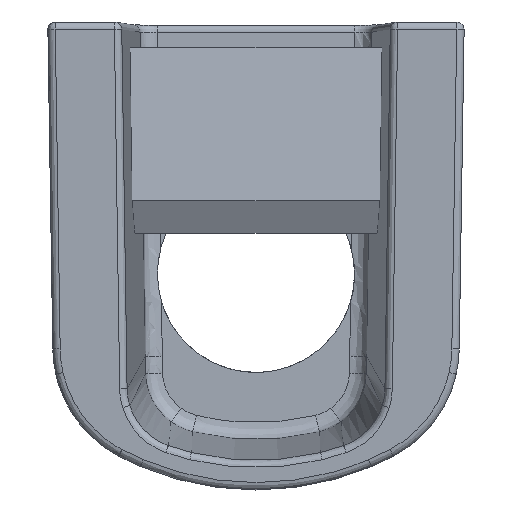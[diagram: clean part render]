
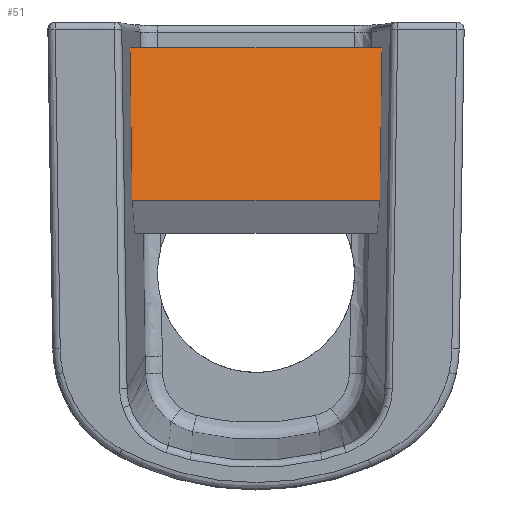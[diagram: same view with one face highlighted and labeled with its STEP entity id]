
A CAD part, top view. The second image highlights one B-rep face of the part: STEP entity #51.
In plain terms, the highlighted planar face has unit normal (0, 0.159, 0.987).
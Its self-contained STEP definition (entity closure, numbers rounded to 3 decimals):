
#51=ADVANCED_FACE('',(#132),#1205,.T.);
#132=FACE_OUTER_BOUND('',#213,.T.);
#213=EDGE_LOOP('',(#407,#408,#409,#410));
#407=ORIENTED_EDGE('',*,*,#755,.F.);
#408=ORIENTED_EDGE('',*,*,#719,.F.);
#409=ORIENTED_EDGE('',*,*,#720,.T.);
#410=ORIENTED_EDGE('',*,*,#676,.F.);
#676=EDGE_CURVE('',#1052,#1053,#876,.T.);
#719=EDGE_CURVE('',#1090,#1089,#919,.T.);
#720=EDGE_CURVE('',#1090,#1053,#920,.T.);
#755=EDGE_CURVE('',#1089,#1052,#954,.T.);
#876=B_SPLINE_CURVE_WITH_KNOTS('',1,(#6256,#6257),.UNSPECIFIED.,.F.,.F.,
(2,2),(0.,102.328),.UNSPECIFIED.);
#919=B_SPLINE_CURVE_WITH_KNOTS('',1,(#6562,#6563),.UNSPECIFIED.,.F.,.F.,
(2,2),(-100.677,0.),.UNSPECIFIED.);
#920=B_SPLINE_CURVE_WITH_KNOTS('',5,(#6564,#6565,#6566,#6567,#6568,#6569),
 .UNSPECIFIED.,.F.,.F.,(6,6),(0.,88.993),.UNSPECIFIED.);
#954=B_SPLINE_CURVE_WITH_KNOTS('',3,(#6759,#6760,#6761,#6762),
 .UNSPECIFIED.,.F.,.F.,(4,4),(0.,88.993),.UNSPECIFIED.);
#1052=VERTEX_POINT('',#5762);
#1053=VERTEX_POINT('',#5763);
#1089=VERTEX_POINT('',#5799);
#1090=VERTEX_POINT('',#5800);
#1205=PLANE('',#1244);
#1244=AXIS2_PLACEMENT_3D('',#3594,#1255,$);
#1255=DIRECTION('',(0.,0.159,0.987));
#3594=CARTESIAN_POINT('',(-61.457,91.45,55.44));
#5762=CARTESIAN_POINT('',(-51.164,85.17,56.451));
#5763=CARTESIAN_POINT('',(51.164,85.17,56.451));
#5799=CARTESIAN_POINT('',(-50.338,23.048,66.451));
#5800=CARTESIAN_POINT('',(50.338,23.048,66.451));
#6256=CARTESIAN_POINT('',(-51.164,85.17,56.451));
#6257=CARTESIAN_POINT('',(51.164,85.17,56.451));
#6562=CARTESIAN_POINT('',(50.338,23.048,66.451));
#6563=CARTESIAN_POINT('',(-50.338,23.048,66.451));
#6564=CARTESIAN_POINT('',(50.338,23.048,66.451));
#6565=CARTESIAN_POINT('',(50.503,35.473,64.451));
#6566=CARTESIAN_POINT('',(50.668,47.898,62.451));
#6567=CARTESIAN_POINT('',(50.834,60.322,60.451));
#6568=CARTESIAN_POINT('',(50.999,72.746,58.451));
#6569=CARTESIAN_POINT('',(51.164,85.17,56.451));
#6759=CARTESIAN_POINT('',(-50.338,23.048,66.451));
#6760=CARTESIAN_POINT('',(-50.613,43.76,63.117));
#6761=CARTESIAN_POINT('',(-50.889,64.467,59.783));
#6762=CARTESIAN_POINT('',(-51.164,85.17,56.451));
